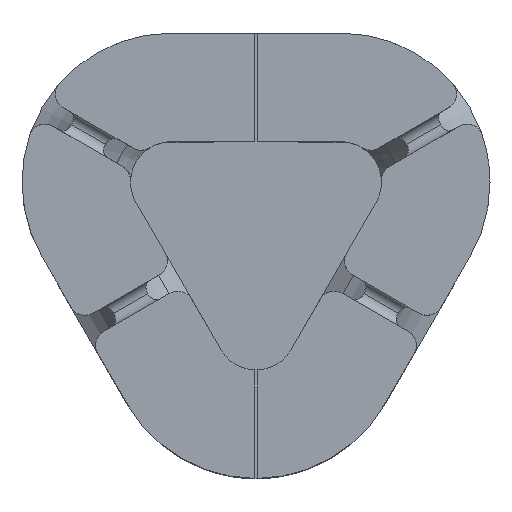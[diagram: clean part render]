
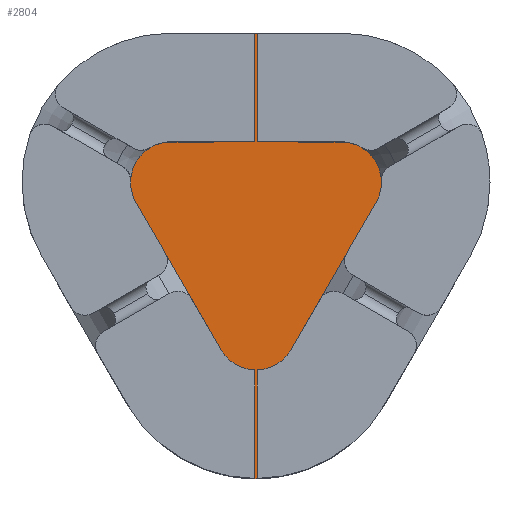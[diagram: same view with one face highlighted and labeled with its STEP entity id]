
A CAD part, top view. The second image highlights one B-rep face of the part: STEP entity #2804.
In plain terms, the highlighted planar face has unit normal (0, 0, 1).
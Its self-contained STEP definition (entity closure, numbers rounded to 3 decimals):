
#138 = DIRECTION ( 'NONE',  ( -1., 0., 0. ) ) ;
#200 = VECTOR ( 'NONE', #4621, 1000. ) ;
#274 = CARTESIAN_POINT ( 'NONE',  ( -4., -23.238, 0.4 ) ) ;
#283 = ORIENTED_EDGE ( 'NONE', *, *, #2771, .T. ) ;
#289 = CARTESIAN_POINT ( 'NONE',  ( 8., 8.419, 0.4 ) ) ;
#332 = VERTEX_POINT ( 'NONE', #289 ) ;
#344 = ORIENTED_EDGE ( 'NONE', *, *, #3933, .T. ) ;
#374 = CARTESIAN_POINT ( 'NONE',  ( 11.8, 4.619, 0.4 ) ) ;
#397 = EDGE_CURVE ( 'NONE', #1953, #1411, #3716, .T. ) ;
#465 = VECTOR ( 'NONE', #1281, 1000. ) ;
#644 = DIRECTION ( 'NONE',  ( -1., 0., 0. ) ) ;
#729 = EDGE_CURVE ( 'NONE', #4744, #3670, #4090, .T. ) ;
#764 = VECTOR ( 'NONE', #5299, 1000. ) ;
#794 = EDGE_CURVE ( 'NONE', #4744, #332, #2561, .T. ) ;
#834 = VECTOR ( 'NONE', #1184, 1000. ) ;
#845 = EDGE_CURVE ( 'NONE', #1538, #2255, #4659, .T. ) ;
#896 = CARTESIAN_POINT ( 'NONE',  ( -8., 8.419, 0.4 ) ) ;
#956 = CARTESIAN_POINT ( 'NONE',  ( 8., 4.619, 0.4 ) ) ;
#1076 = CARTESIAN_POINT ( 'NONE',  ( -4., -22.654, 0.4 ) ) ;
#1184 = DIRECTION ( 'NONE',  ( 0., 1., 0. ) ) ;
#1281 = DIRECTION ( 'NONE',  ( 0., 1., 0. ) ) ;
#1305 = EDGE_CURVE ( 'NONE', #3166, #2608, #5074, .T. ) ;
#1311 = EDGE_CURVE ( 'NONE', #3166, #1538, #5001, .T. ) ;
#1375 = ORIENTED_EDGE ( 'NONE', *, *, #2218, .T. ) ;
#1411 = VERTEX_POINT ( 'NONE', #2976 ) ;
#1444 = AXIS2_PLACEMENT_3D ( 'NONE', #1489, #4615, #4207 ) ;
#1489 = CARTESIAN_POINT ( 'NONE',  ( -8., 4.619, 0.4 ) ) ;
#1497 = CARTESIAN_POINT ( 'NONE',  ( -8., 8.419, 0.4 ) ) ;
#1538 = VERTEX_POINT ( 'NONE', #1646 ) ;
#1576 = LINE ( 'NONE', #3049, #2905 ) ;
#1589 = PLANE ( 'NONE',  #3535 ) ;
#1614 = CIRCLE ( 'NONE', #1735, 3.8 ) ;
#1646 = CARTESIAN_POINT ( 'NONE',  ( -11.291, 2.719, 0.4 ) ) ;
#1735 = AXIS2_PLACEMENT_3D ( 'NONE', #5604, #2902, #3365 ) ;
#1837 = ORIENTED_EDGE ( 'NONE', *, *, #1305, .F. ) ;
#1875 = CIRCLE ( 'NONE', #4516, 14. ) ;
#1885 = CARTESIAN_POINT ( 'NONE',  ( 3.291, -11.138, 0.4 ) ) ;
#1949 = ORIENTED_EDGE ( 'NONE', *, *, #2174, .T. ) ;
#1953 = VERTEX_POINT ( 'NONE', #2192 ) ;
#1978 = CARTESIAN_POINT ( 'NONE',  ( -8., 8.419, 0.4 ) ) ;
#2040 = DIRECTION ( 'NONE',  ( 0., 0., -1. ) ) ;
#2043 = ORIENTED_EDGE ( 'NONE', *, *, #2135, .F. ) ;
#2081 = CARTESIAN_POINT ( 'NONE',  ( -4., 18.619, 0.4 ) ) ;
#2115 = LINE ( 'NONE', #1885, #2880 ) ;
#2135 = EDGE_CURVE ( 'NONE', #2608, #4846, #5777, .T. ) ;
#2137 = CARTESIAN_POINT ( 'NONE',  ( 11.291, 2.719, 0.4 ) ) ;
#2152 = CARTESIAN_POINT ( 'NONE',  ( 4., -23.238, 0.4 ) ) ;
#2174 = EDGE_CURVE ( 'NONE', #1411, #3953, #2115, .T. ) ;
#2192 = CARTESIAN_POINT ( 'NONE',  ( 4., -22.654, 0.4 ) ) ;
#2218 = EDGE_CURVE ( 'NONE', #5510, #332, #4842, .T. ) ;
#2255 = VERTEX_POINT ( 'NONE', #2415 ) ;
#2276 = ORIENTED_EDGE ( 'NONE', *, *, #3568, .F. ) ;
#2376 = EDGE_CURVE ( 'NONE', #2603, #2255, #5849, .T. ) ;
#2415 = CARTESIAN_POINT ( 'NONE',  ( -4., -9.909, 0.4 ) ) ;
#2561 = LINE ( 'NONE', #1497, #200 ) ;
#2594 = DIRECTION ( 'NONE',  ( 0., 0., -1. ) ) ;
#2603 = VERTEX_POINT ( 'NONE', #1076 ) ;
#2608 = VERTEX_POINT ( 'NONE', #2852 ) ;
#2771 = EDGE_CURVE ( 'NONE', #3953, #5510, #1614, .T. ) ;
#2804 = ADVANCED_FACE ( 'NONE', ( #4134 ), #1589, .F. ) ;
#2810 = DIRECTION ( 'NONE',  ( 0.5, 0.866, 0. ) ) ;
#2823 = ORIENTED_EDGE ( 'NONE', *, *, #794, .F. ) ;
#2849 = DIRECTION ( 'NONE',  ( 0., 0., 1. ) ) ;
#2852 = CARTESIAN_POINT ( 'NONE',  ( -4., 8.419, 0.4 ) ) ;
#2880 = VECTOR ( 'NONE', #2810, 1000. ) ;
#2902 = DIRECTION ( 'NONE',  ( 0., 0., 1. ) ) ;
#2905 = VECTOR ( 'NONE', #3921, 1000. ) ;
#2976 = CARTESIAN_POINT ( 'NONE',  ( 4., -9.909, 0.4 ) ) ;
#3049 = CARTESIAN_POINT ( 'NONE',  ( -8., 18.619, 0.4 ) ) ;
#3166 = VERTEX_POINT ( 'NONE', #896 ) ;
#3186 = AXIS2_PLACEMENT_3D ( 'NONE', #956, #2849, #138 ) ;
#3286 = DIRECTION ( 'NONE',  ( 0., 1., 0. ) ) ;
#3310 = CARTESIAN_POINT ( 'NONE',  ( 4., -23.238, 0.4 ) ) ;
#3357 = ORIENTED_EDGE ( 'NONE', *, *, #397, .T. ) ;
#3365 = DIRECTION ( 'NONE',  ( -1., 0., 0. ) ) ;
#3386 = VECTOR ( 'NONE', #4740, 1000. ) ;
#3535 = AXIS2_PLACEMENT_3D ( 'NONE', #3854, #2040, #644 ) ;
#3568 = EDGE_CURVE ( 'NONE', #1953, #2603, #1875, .T. ) ;
#3670 = VERTEX_POINT ( 'NONE', #5400 ) ;
#3716 = LINE ( 'NONE', #2152, #764 ) ;
#3737 = VECTOR ( 'NONE', #3286, 1000. ) ;
#3854 = CARTESIAN_POINT ( 'NONE',  ( -8., 4.619, 0.4 ) ) ;
#3921 = DIRECTION ( 'NONE',  ( -1., 0., 0. ) ) ;
#3933 = EDGE_CURVE ( 'NONE', #3670, #4846, #1576, .T. ) ;
#3944 = VECTOR ( 'NONE', #4599, 1000. ) ;
#3953 = VERTEX_POINT ( 'NONE', #2137 ) ;
#4090 = LINE ( 'NONE', #3310, #3737 ) ;
#4134 = FACE_OUTER_BOUND ( 'NONE', #5642, .T. ) ;
#4152 = CARTESIAN_POINT ( 'NONE',  ( 4., 8.419, 0.4 ) ) ;
#4167 = ORIENTED_EDGE ( 'NONE', *, *, #1311, .T. ) ;
#4207 = DIRECTION ( 'NONE',  ( -1., 0., 0. ) ) ;
#4516 = AXIS2_PLACEMENT_3D ( 'NONE', #5301, #2594, #5748 ) ;
#4599 = DIRECTION ( 'NONE',  ( 1., 0., 0. ) ) ;
#4615 = DIRECTION ( 'NONE',  ( 0., 0., 1. ) ) ;
#4621 = DIRECTION ( 'NONE',  ( 1., 0., 0. ) ) ;
#4659 = LINE ( 'NONE', #5644, #3386 ) ;
#4740 = DIRECTION ( 'NONE',  ( 0.5, -0.866, 0. ) ) ;
#4744 = VERTEX_POINT ( 'NONE', #4152 ) ;
#4820 = CARTESIAN_POINT ( 'NONE',  ( -4., -23.238, 0.4 ) ) ;
#4842 = CIRCLE ( 'NONE', #3186, 3.8 ) ;
#4846 = VERTEX_POINT ( 'NONE', #2081 ) ;
#5001 = CIRCLE ( 'NONE', #1444, 3.8 ) ;
#5064 = ORIENTED_EDGE ( 'NONE', *, *, #2376, .F. ) ;
#5074 = LINE ( 'NONE', #1978, #3944 ) ;
#5158 = ORIENTED_EDGE ( 'NONE', *, *, #845, .T. ) ;
#5299 = DIRECTION ( 'NONE',  ( 0., 1., 0. ) ) ;
#5301 = CARTESIAN_POINT ( 'NONE',  ( 0., -9.238, 0.4 ) ) ;
#5400 = CARTESIAN_POINT ( 'NONE',  ( 4., 18.619, 0.4 ) ) ;
#5424 = ORIENTED_EDGE ( 'NONE', *, *, #729, .T. ) ;
#5510 = VERTEX_POINT ( 'NONE', #374 ) ;
#5604 = CARTESIAN_POINT ( 'NONE',  ( 8., 4.619, 0.4 ) ) ;
#5642 = EDGE_LOOP ( 'NONE', ( #2823, #5424, #344, #2043, #1837, #4167, #5158, #5064, #2276, #3357, #1949, #283, #1375 ) ) ;
#5644 = CARTESIAN_POINT ( 'NONE',  ( -11.291, 2.719, 0.4 ) ) ;
#5748 = DIRECTION ( 'NONE',  ( -1., 0., 0. ) ) ;
#5777 = LINE ( 'NONE', #4820, #465 ) ;
#5849 = LINE ( 'NONE', #274, #834 ) ;
